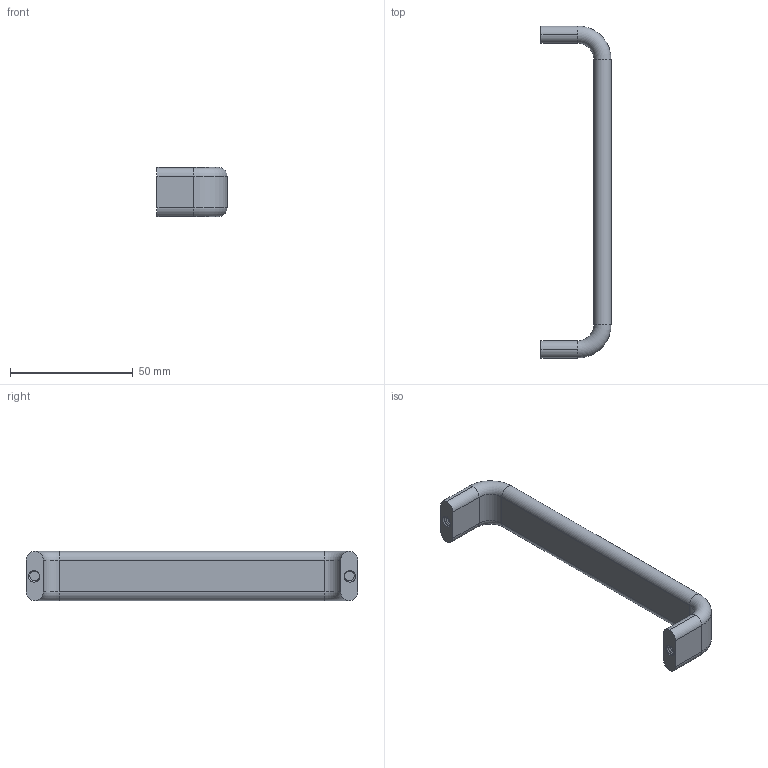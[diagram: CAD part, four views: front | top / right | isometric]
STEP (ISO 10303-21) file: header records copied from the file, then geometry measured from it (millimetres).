
FILE_DESCRIPTION (( 'STEP AP203' ), '1' );
FILE_NAME ('198-CE-HDF-128.STEP', '2015-07-09T09:22:20', ( '' ), ( '' ), 'SwSTEP 2.0', 'SolidWorks 2013', '' );
FILE_SCHEMA (( 'CONFIG_CONTROL_DESIGN' ));
Length unit declared in the file: millimetre
Products named in the file (1): 198-CE-HDF-128
Bounding box: 28.5 x 135 x 20 mm (x, y, z)
Volume: 21765.3 mm3; surface area: 8627.9 mm2
Topology: 1 solids, 1 shells, 52 faces, 128 edges, 80 vertices
Faces by surface type: cylinder 34, plane 10, torus 4, bspline 4
Entity records: 2975 total; most frequent: CARTESIAN_POINT 1817, ORIENTED_EDGE 256, DIRECTION 200, EDGE_CURVE 128, VERTEX_POINT 80, AXIS2_PLACEMENT_3D 77, EDGE_LOOP 54, ADVANCED_FACE 52
